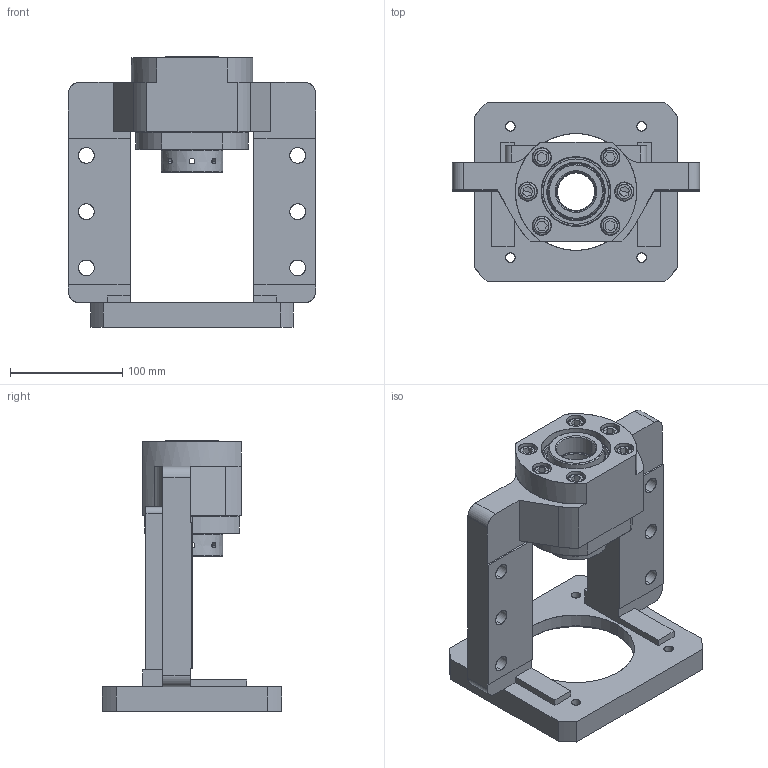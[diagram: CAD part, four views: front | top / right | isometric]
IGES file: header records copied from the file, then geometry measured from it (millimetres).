
Start section: SolidWorks IGES file using analytic representation for surfaces
Bounding box: 220 x 160 x 241 mm (x, y, z)
Surface area: 235277 mm2 (no closed solid volume)
Topology: 0 solids, 0 shells, 344 faces, 6710 edges, 6698 vertices
Faces by surface type: revolution 190, bspline 154
